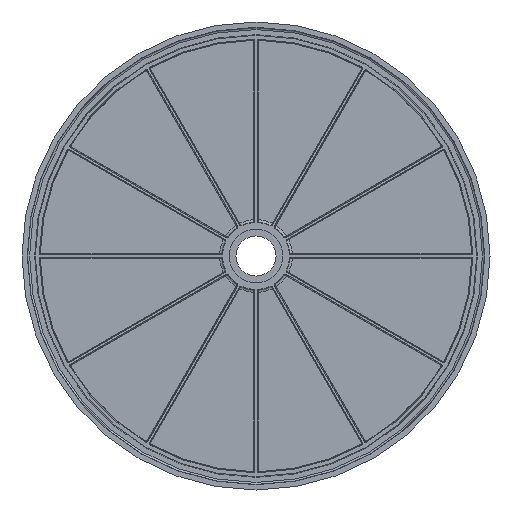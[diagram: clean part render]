
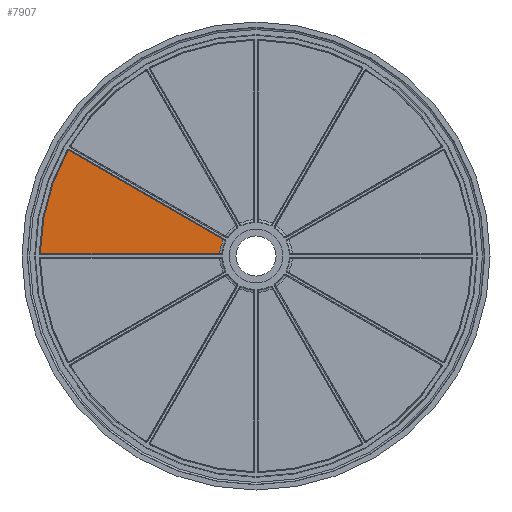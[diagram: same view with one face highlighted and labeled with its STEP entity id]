
A CAD part, left-side view. The second image highlights one B-rep face of the part: STEP entity #7907.
In plain terms, the highlighted planar face has unit normal (-1, 0, 0).
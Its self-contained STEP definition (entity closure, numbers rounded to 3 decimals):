
#7830=CARTESIAN_POINT('',(-34.272,61.109,0.0));
#7831=DIRECTION('',(-1.0,0.0,0.0));
#7832=DIRECTION('',(0.0,0.0,1.0));
#7833=AXIS2_PLACEMENT_3D('',#7830,#7831,#7832);
#7834=PLANE('',#7833);
#7835=CARTESIAN_POINT('',(-34.272,-9.928,1.617));
#7836=VERTEX_POINT('',#7835);
#7837=CARTESIAN_POINT('',(-34.272,-12.76,12.185));
#7838=VERTEX_POINT('',#7837);
#7839=CARTESIAN_POINT('',(-34.272,-37.099,0.0));
#7840=DIRECTION('',(1.0,0.0,0.0));
#7841=DIRECTION('',(0.0,0.0,1.0));
#7842=AXIS2_PLACEMENT_3D('',#7839,#7840,#7841);
#7843=CIRCLE('',#7842,27.218);
#7844=EDGE_CURVE('',#7836,#7838,#7843,.T.);
#7845=ORIENTED_EDGE('',*,*,#7844,.T.);
#7846=CARTESIAN_POINT('',(-34.272,102.477,78.717));
#7847=VERTEX_POINT('',#7846);
#7848=CARTESIAN_POINT('',(-34.272,-12.76,12.185));
#7849=DIRECTION('',(0.0,0.866,0.5));
#7850=VECTOR('',#7849,133.064);
#7851=LINE('',#7848,#7850);
#7852=EDGE_CURVE('',#7838,#7847,#7851,.T.);
#7853=ORIENTED_EDGE('',*,*,#7852,.T.);
#7854=CARTESIAN_POINT('',(-34.272,103.851,78.337));
#7855=VERTEX_POINT('',#7854);
#7856=CARTESIAN_POINT('',(-34.272,102.477,78.717));
#7857=CARTESIAN_POINT('',(-34.272,102.592,78.784));
#7858=CARTESIAN_POINT('',(-34.272,102.719,78.826));
#7859=CARTESIAN_POINT('',(-34.272,102.85,78.843));
#7860=CARTESIAN_POINT('',(-34.272,102.982,78.86));
#7861=CARTESIAN_POINT('',(-34.272,103.116,78.85));
#7862=CARTESIAN_POINT('',(-34.272,103.243,78.815));
#7863=CARTESIAN_POINT('',(-34.272,103.37,78.78));
#7864=CARTESIAN_POINT('',(-34.272,103.491,78.719));
#7865=CARTESIAN_POINT('',(-34.272,103.594,78.637));
#7866=CARTESIAN_POINT('',(-34.272,103.698,78.556));
#7867=CARTESIAN_POINT('',(-34.272,103.786,78.453));
#7868=CARTESIAN_POINT('',(-34.272,103.851,78.337));
#7869=B_SPLINE_CURVE_WITH_KNOTS('',3,(#7856,#7857,#7858,#7859,#7860,#7861,#7862,#7863,#7864,#7865,#7866,#7867,#7868),.UNSPECIFIED.,.F.,.U.,(4,3,3,3,4),(0.0,0.,0.001,0.001,0.002),.UNSPECIFIED.);
#7870=EDGE_CURVE('',#7847,#7855,#7869,.T.);
#7871=ORIENTED_EDGE('',*,*,#7870,.T.);
#7872=CARTESIAN_POINT('',(-34.272,124.135,2.633));
#7873=VERTEX_POINT('',#7872);
#7874=CARTESIAN_POINT('',(-34.272,-37.099,0.0));
#7875=DIRECTION('',(-1.0,0.0,0.0));
#7876=DIRECTION('',(0.0,0.0,1.0));
#7877=AXIS2_PLACEMENT_3D('',#7874,#7875,#7876);
#7878=CIRCLE('',#7877,161.256);
#7879=EDGE_CURVE('',#7855,#7873,#7878,.T.);
#7880=ORIENTED_EDGE('',*,*,#7879,.T.);
#7881=CARTESIAN_POINT('',(-34.272,123.136,1.617));
#7882=VERTEX_POINT('',#7881);
#7883=CARTESIAN_POINT('',(-34.272,124.135,2.633));
#7884=CARTESIAN_POINT('',(-34.272,124.138,2.5));
#7885=CARTESIAN_POINT('',(-34.272,124.113,2.368));
#7886=CARTESIAN_POINT('',(-34.272,124.064,2.245));
#7887=CARTESIAN_POINT('',(-34.272,124.015,2.123));
#7888=CARTESIAN_POINT('',(-34.272,123.941,2.01));
#7889=CARTESIAN_POINT('',(-34.272,123.849,1.916));
#7890=CARTESIAN_POINT('',(-34.272,123.756,1.822));
#7891=CARTESIAN_POINT('',(-34.272,123.644,1.746));
#7892=CARTESIAN_POINT('',(-34.272,123.523,1.695));
#7893=CARTESIAN_POINT('',(-34.272,123.402,1.644));
#7894=CARTESIAN_POINT('',(-34.272,123.269,1.617));
#7895=CARTESIAN_POINT('',(-34.272,123.136,1.617));
#7896=B_SPLINE_CURVE_WITH_KNOTS('',3,(#7883,#7884,#7885,#7886,#7887,#7888,#7889,#7890,#7891,#7892,#7893,#7894,#7895),.UNSPECIFIED.,.F.,.U.,(4,3,3,3,4),(0.0,0.,0.001,0.001,0.002),.UNSPECIFIED.);
#7897=EDGE_CURVE('',#7873,#7882,#7896,.T.);
#7898=ORIENTED_EDGE('',*,*,#7897,.T.);
#7899=CARTESIAN_POINT('',(-34.272,123.136,1.617));
#7900=DIRECTION('',(0.0,-1.0,0.0));
#7901=VECTOR('',#7900,133.064);
#7902=LINE('',#7899,#7901);
#7903=EDGE_CURVE('',#7882,#7836,#7902,.T.);
#7904=ORIENTED_EDGE('',*,*,#7903,.T.);
#7905=EDGE_LOOP('',(#7845,#7853,#7871,#7880,#7898,#7904));
#7906=FACE_OUTER_BOUND('',#7905,.T.);
#7907=ADVANCED_FACE('',(#7906),#7834,.T.);
